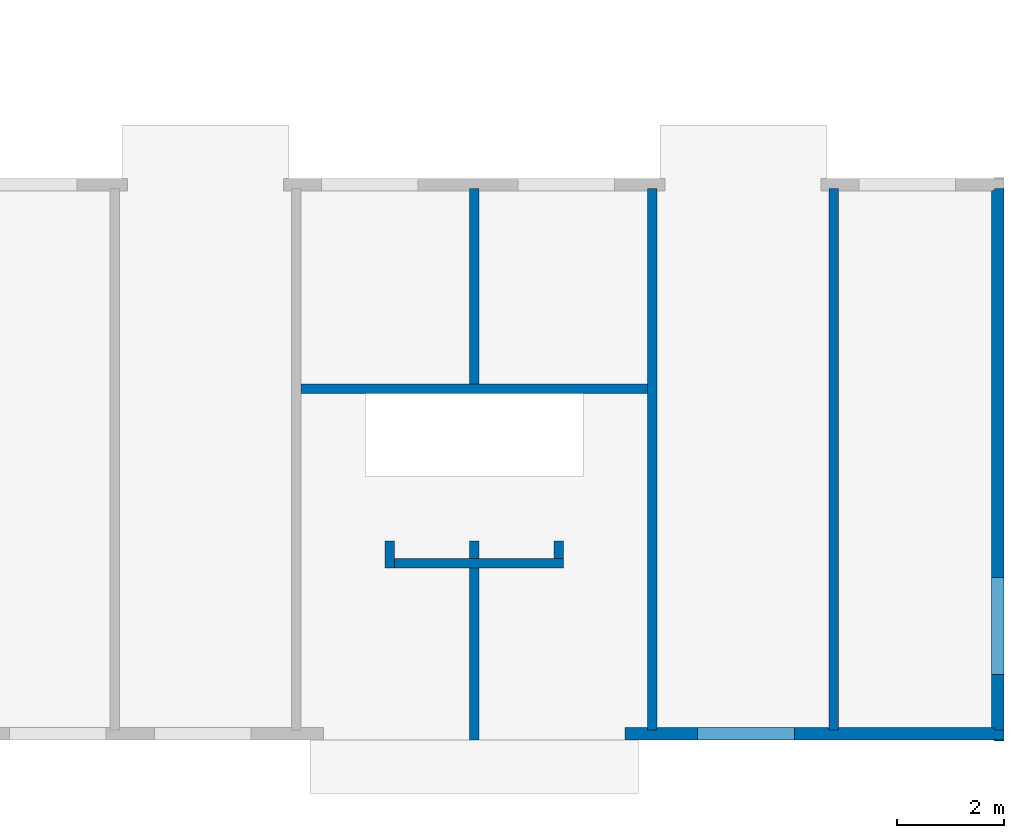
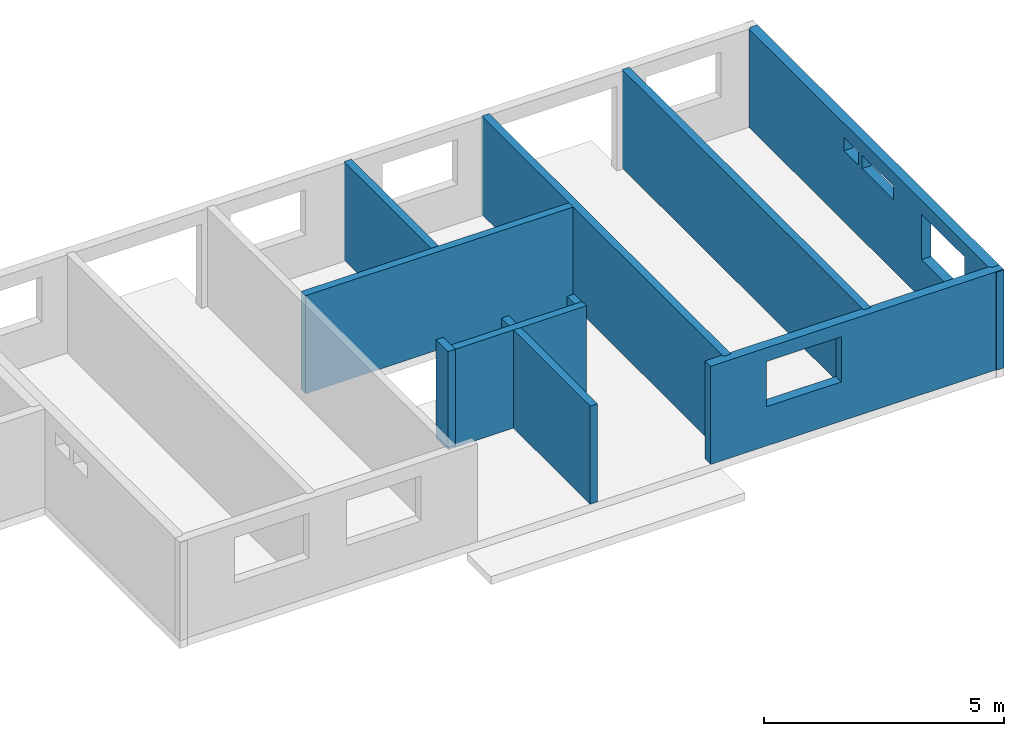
# One storey, part 8 of 9: 12 walls, 4 openings.
"""IFC2X3 building model written with IfcOpenShell, lengths in millimetres."""

from ifc_helpers import new_model, entity, si_unit, converted_unit, frame, frame_2d, origin, origin_with_axes, place, context, subcontext, project, spatial, polyline, rectangle, outline, extrude, material, layer, layer_set, layer_usage, element, save


model = new_model("IFC2X3")

# Units and contexts
model_context = context("Model", 3, precision=1e-05, world=origin())
plan_context = context("Plan", 3, precision=1e-05, world=origin())
body_context = subcontext(model_context, "Body", "Model", "MODEL_VIEW")
ifc_project = project(units=[si_unit("LENGTHUNIT", "METRE", prefix="MILLI"), converted_unit("PLANEANGLEUNIT", "DEGREE", entity("IfcPlaneAngleMeasure", 0.0174532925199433), si_unit("PLANEANGLEUNIT", "RADIAN"), dimensions=[0, 0, 0, 0, 0, 0, 0]), si_unit("AREAUNIT", "SQUARE_METRE"), si_unit("VOLUMEUNIT", "CUBIC_METRE")], contexts=[model_context, plan_context])

# Building, storey
building_placement = place(None, origin())
building = spatial("IfcBuilding", under=ifc_project, at=building_placement, Name="Bâtiment", CompositionType="ELEMENT")
storey_placement = place(building_placement, frame((0.0, 0.0, 2700.0), z_axis=(0.0, 0.0, 1.0), x_axis=(1.0, 0.0, 0.0)))
storey = spatial("IfcBuildingStorey", under=building, at=storey_placement, Name="r+1", CompositionType="ELEMENT", Elevation=2700.0)

# Walls
ifc_material_1 = material(Name="moellons")
ifc_layer_1 = layer(ifc_material_1, 20.16279356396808)
ifc_layer_set_1 = layer_set([ifc_layer_1])
ifc_layer_usage_1 = layer_usage(ifc_layer_set_1, "AXIS2", "POSITIVE", 0.0)
wall_1_placement = place(storey_placement, frame((59549.9999999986, -5599.999999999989, 0.0), z_axis=(0.0, 0.0, 1.0), x_axis=(-1.0, 0.0, 0.0)))
element("IfcWallStandardCase", 1, at=wall_1_placement, inside=storey, material=ifc_layer_usage_1, context=body_context, shape_type="SweptSolid", body=[
    extrude(rectangle(XDim=180.0, YDim=20.16279356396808, at=frame_2d((90.0, 10.08139678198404), x_axis=(1.0, 0.0))), frame((0.0, -20.16279356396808, 0.0), z_axis=(0.0, 0.0, 1.0), x_axis=(1.0, 0.0, 0.0)), (0.0, 0.0, 1.0), 2500.0),
])
ifc_material_2 = material(Name="moellons")
ifc_layer_2 = layer(ifc_material_2, 180.0)
ifc_layer_set_2 = layer_set([ifc_layer_2])
ifc_layer_usage_2 = layer_usage(ifc_layer_set_2, "AXIS2", "POSITIVE", 0.0)
wall_2_placement = place(storey_placement, frame((53089.99993810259, -5399.837206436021, 0.0), z_axis=(0.0, 0.0, 1.0), x_axis=(0.0, 1.0, 0.0)))
element("IfcWallStandardCase", 2, at=wall_2_placement, inside=storey, material=ifc_layer_usage_2, context=body_context, shape_type="SweptSolid", body=[
    extrude(rectangle(XDim=10089.91497192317, YDim=180.0, at=frame_2d((5044.957485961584, 90.0), x_axis=(1.0, 0.0))), origin_with_axes(), (0.0, 0.0, 1.0), 2500.0),
])
ifc_material_3 = material(Name="moellons")
ifc_layer_3 = layer(ifc_material_3, 180.0)
ifc_layer_set_3 = layer_set([ifc_layer_3])
ifc_layer_usage_3 = layer_usage(ifc_layer_set_3, "AXIS2", "POSITIVE", 0.0)
wall_3_placement = place(storey_placement, frame((56469.99999999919, -5399.837206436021, 0.0), z_axis=(0.0, 0.0, 1.0), x_axis=(0.0, 1.0, 0.0)))
element("IfcWallStandardCase", 3, at=wall_3_placement, inside=storey, material=ifc_layer_usage_3, context=body_context, shape_type="SweptSolid", body=[
    extrude(rectangle(XDim=10089.91497192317, YDim=180.0, at=frame_2d((5044.957485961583, 90.0), x_axis=(1.0, 0.0))), origin_with_axes(), (0.0, 0.0, 1.0), 2500.0),
])
ifc_material_4 = material(Name="moellons")
ifc_layer_4 = layer(ifc_material_4, 180.0)
ifc_layer_set_4 = layer_set([ifc_layer_4])
ifc_layer_usage_4 = layer_usage(ifc_layer_set_4, "AXIS2", "POSITIVE", 0.0)
wall_4_placement = place(storey_placement, frame((49774.99999999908, -5579.961782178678, 0.0), z_axis=(0.0, 0.0, 1.0), x_axis=(0.0, 1.0, 0.0)))
element("IfcWallStandardCase", 4, at=wall_4_placement, inside=storey, material=ifc_layer_usage_4, context=body_context, shape_type="SweptSolid", body=[
    extrude(outline(polyline([(0.0, 0.0), (3200.039547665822, 0.0), (3200.039547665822, 180.0), (0.0007169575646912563, 180.0), (0.0, 0.0)])), origin_with_axes(), (0.0, 0.0, 1.0), 2500.0),
])
ifc_material_5 = material(Name="moellons")
ifc_layer_5 = layer(ifc_material_5, 180.0)
ifc_layer_set_5 = layer_set([ifc_layer_5])
ifc_layer_usage_5 = layer_usage(ifc_layer_set_5, "AXIS2", "POSITIVE", 0.0)
wall_5_placement = place(storey_placement, frame((49774.99999999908, -5579.961782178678, 0.0), z_axis=(0.0, 0.0, 1.0), x_axis=(0.0, 1.0, 0.0)))
element("IfcWallStandardCase", 5, at=wall_5_placement, inside=storey, material=ifc_layer_usage_5, context=body_context, shape_type="SweptSolid", body=[
    extrude(outline(polyline([(3380.039547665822, 0.0), (3700.039547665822, 0.0), (3700.039547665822, 180.0), (3380.039547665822, 180.0), (3380.039547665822, 0.0)])), origin_with_axes(), (0.0, 0.0, 1.0), 2500.0),
])
ifc_material_6 = material(Name="moellons")
ifc_layer_6 = layer(ifc_material_6, 180.0)
ifc_layer_set_6 = layer_set([ifc_layer_6])
ifc_layer_usage_6 = layer_usage(ifc_layer_set_6, "AXIS2", "POSITIVE", 0.0)
wall_6_placement = place(storey_placement, frame((49774.99999999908, 1050.077765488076, 0.0), z_axis=(0.0, 0.0, 1.0), x_axis=(0.0, 1.0, 0.0)))
element("IfcWallStandardCase", 6, at=wall_6_placement, inside=storey, material=ifc_layer_usage_6, context=body_context, shape_type="SweptSolid", body=[
    extrude(rectangle(XDim=3639.999999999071, YDim=180.0, at=frame_2d((1819.999999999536, 90.0), x_axis=(1.0, 0.0))), origin_with_axes(), (0.0, 0.0, 1.0), 2500.0),
])
ifc_material_7 = material(Name="moellons")
ifc_layer_7 = layer(ifc_material_7, 180.0)
ifc_layer_set_7 = layer_set([ifc_layer_7])
ifc_layer_usage_7 = layer_usage(ifc_layer_set_7, "AXIS2", "POSITIVE", 0.0)
wall_7_placement = place(storey_placement, frame((52909.99947974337, 1050.077765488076, 0.0), z_axis=(0.0, 0.0, 1.0), x_axis=(-1.0, 0.0, 0.0)))
element("IfcWallStandardCase", 7, at=wall_7_placement, inside=storey, material=ifc_layer_usage_7, context=body_context, shape_type="SweptSolid", body=[
    extrude(rectangle(XDim=6449.999479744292, YDim=180.0, at=frame_2d((3224.999739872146, 90.0), x_axis=(1.0, 0.0))), origin_with_axes(), (0.0, 0.0, 1.0), 2500.0),
])
ifc_material_8 = material(Name="moellons")
ifc_layer_8 = layer(ifc_material_8, 180.0)
ifc_layer_set_8 = layer_set([ifc_layer_8])
ifc_layer_usage_8 = layer_usage(ifc_layer_set_8, "AXIS2", "POSITIVE", 0.0)
wall_8_placement = place(storey_placement, frame((48199.99945313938, -2379.922234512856, 0.0), z_axis=(0.0, 0.0, 1.0), x_axis=(0.0, 1.0, 0.0)))
element("IfcWallStandardCase", 8, at=wall_8_placement, inside=storey, material=ifc_layer_usage_8, context=body_context, shape_type="SweptSolid", body=[
    extrude(rectangle(XDim=500.0, YDim=180.0, at=frame_2d((250.0, 90.0), x_axis=(1.0, 0.0))), origin_with_axes(), (0.0, 0.0, 1.0), 2500.0),
])
ifc_material_9 = material(Name="moellons")
ifc_layer_9 = layer(ifc_material_9, 180.0)
ifc_layer_set_9 = layer_set([ifc_layer_9])
ifc_layer_usage_9 = layer_usage(ifc_layer_set_9, "AXIS2", "POSITIVE", 0.0)
wall_9_placement = place(storey_placement, frame((51349.9994531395, -2199.922234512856, 0.0), z_axis=(0.0, 0.0, 1.0), x_axis=(-1.0, 0.0, 0.0)))
element("IfcWallStandardCase", 9, at=wall_9_placement, inside=storey, material=ifc_layer_usage_9, context=body_context, shape_type="SweptSolid", body=[
    extrude(rectangle(XDim=3150.000000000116, YDim=180.0, at=frame_2d((1575.000000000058, 90.0), x_axis=(1.0, 0.0))), origin_with_axes(), (0.0, 0.0, 1.0), 2500.0),
])
ifc_material_10 = material(Name="moellons")
ifc_layer_10 = layer(ifc_material_10, 180.0)
ifc_layer_set_10 = layer_set([ifc_layer_10])
ifc_layer_usage_10 = layer_usage(ifc_layer_set_10, "AXIS2", "POSITIVE", 0.0)
wall_10_placement = place(storey_placement, frame((51169.9994531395, -1879.922234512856, 0.0), z_axis=(0.0, 0.0, 1.0), x_axis=(0.0, -1.0, 0.0)))
element("IfcWallStandardCase", 10, at=wall_10_placement, inside=storey, material=ifc_layer_usage_10, context=body_context, shape_type="SweptSolid", body=[
    extrude(rectangle(XDim=320.0, YDim=180.0, at=frame_2d((160.0, 90.0), x_axis=(1.0, 0.0))), origin_with_axes(), (0.0, 0.0, 1.0), 2500.0),
])

# Wall, openings
ifc_material_11 = material(Name="moellons")
ifc_layer_11 = layer(ifc_material_11, 180.0)
ifc_material_12 = material(Name="briquettes")
ifc_layer_12 = layer(ifc_material_12, 40.0)
ifc_material_13 = material(Name="enduit platre")
ifc_layer_13 = layer(ifc_material_13, 10.0)
ifc_layer_set_11 = layer_set([ifc_layer_11, ifc_layer_12, ifc_layer_13])
ifc_layer_usage_11 = layer_usage(ifc_layer_set_11, "AXIS2", "POSITIVE", 0.0)
wall_11_placement = place(storey_placement, frame((59549.99999999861, -5399.837206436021, 0.0), z_axis=(0.0, 0.0, 1.0), x_axis=(0.0, 1.0, 0.0)))
wall_11 = element("IfcWallStandardCase", 11, at=wall_11_placement, inside=storey, material=ifc_layer_usage_11, context=body_context, shape_type="SweptSolid", body=[
    extrude(outline(polyline([(0.0, 0.0), (10089.91497192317, 0.0), (10089.91497192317, 180.0), (10049.91497192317, 180.0), (10049.91497192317, 220.0), (10039.91497192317, 220.0), (10039.91497192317, 230.0), (50.0, 230.0), (50.0, 220.0), (40.0, 220.0), (40.0, 180.0), (0.0, 180.0), (0.0, 0.0)])), origin_with_axes(), (0.0, 0.0, 1.0), 2500.0),
])
opening_1_placement = place(wall_11_placement, frame((1039.837206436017, 0.0, 1000.0), z_axis=(0.0, 1.0, 0.0), x_axis=(0.0, 0.0, 1.0)))
element("IfcOpeningElement", 12, at=opening_1_placement, cuts=wall_11, Name="Baie de fenêtre", ObjectType="Opening", context=body_context, shape_type="SweptSolid", body=[
    extrude(rectangle(XDim=1150.0, YDim=1800.0, at=frame_2d((575.0, 900.0), x_axis=(1.0, 0.0))), origin_with_axes(), (0.0, 0.0, 1.0), 230.0),
])
opening_2_placement = place(wall_11_placement, frame((5469.914971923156, 0.0, 1810.0), z_axis=(0.0, 1.0, 0.0), x_axis=(0.0, 0.0, 1.0)))
element("IfcOpeningElement", 13, at=opening_2_placement, cuts=wall_11, Name="Baie de fenêtre", ObjectType="Opening", context=body_context, shape_type="SweptSolid", body=[
    extrude(rectangle(XDim=340.0, YDim=600.0, at=frame_2d((170.0, 300.0), x_axis=(1.0, 0.0))), origin_with_axes(), (0.0, 0.0, 1.0), 230.0),
])
opening_3_placement = place(wall_11_placement, frame((4019.914971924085, 0.0, 1810.0), z_axis=(0.0, 1.0, 0.0), x_axis=(0.0, 0.0, 1.0)))
element("IfcOpeningElement", 14, at=opening_3_placement, cuts=wall_11, Name="Baie de fenêtre", ObjectType="Opening", context=body_context, shape_type="SweptSolid", body=[
    extrude(rectangle(XDim=340.0, YDim=1300.0, at=frame_2d((170.0, 650.0), x_axis=(1.0, 0.0))), origin_with_axes(), (0.0, 0.0, 1.0), 230.0),
])

# Wall, opening
ifc_material_14 = material(Name="moellons")
ifc_layer_14 = layer(ifc_material_14, 180.0)
ifc_material_15 = material(Name="briquettes")
ifc_layer_15 = layer(ifc_material_15, 40.0)
ifc_material_16 = material(Name="enduit platre")
ifc_layer_16 = layer(ifc_material_16, 10.0)
ifc_layer_set_12 = layer_set([ifc_layer_14, ifc_layer_15, ifc_layer_16])
ifc_layer_usage_12 = layer_usage(ifc_layer_set_12, "AXIS2", "POSITIVE", 0.0)
wall_12_placement = place(storey_placement, frame((52494.99999999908, -5579.837206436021, 0.0), z_axis=(0.0, 0.0, 1.0), x_axis=(1.0, 0.0, 0.0)))
wall_12 = element("IfcWallStandardCase", 15, at=wall_12_placement, inside=storey, material=ifc_layer_usage_12, context=body_context, shape_type="SweptSolid", body=[
    extrude(outline(polyline([(0.0, 0.0), (7054.999999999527, 0.0), (7054.999999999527, 180.0), (6874.999999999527, 180.0), (6874.999999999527, 220.0), (6834.999999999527, 220.0), (6834.999999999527, 230.0), (3975.000000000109, 230.0), (3975.000000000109, 180.0), (3795.000000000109, 180.0), (3795.000000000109, 230.0), (594.9999381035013, 230.0), (594.9999381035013, 180.0), (414.9999381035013, 180.0), (414.9999381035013, 230.0), (0.0, 230.0), (0.0, 0.0)])), origin_with_axes(), (0.0, 0.0, 1.0), 2500.0),
])
opening_4_placement = place(wall_12_placement, frame((1349.999999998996, 0.0, 1000.0), z_axis=(0.0, 1.0, 0.0), x_axis=(0.0, 0.0, 1.0)))
element("IfcOpeningElement", 16, at=opening_4_placement, cuts=wall_12, Name="Baie de fenêtre", ObjectType="Opening", context=body_context, shape_type="SweptSolid", body=[
    extrude(rectangle(XDim=1150.0, YDim=1800.0, at=frame_2d((575.0, 900.0), x_axis=(1.0, 0.0))), origin_with_axes(), (0.0, 0.0, 1.0), 230.0),
])

save(model, "model.ifc")
